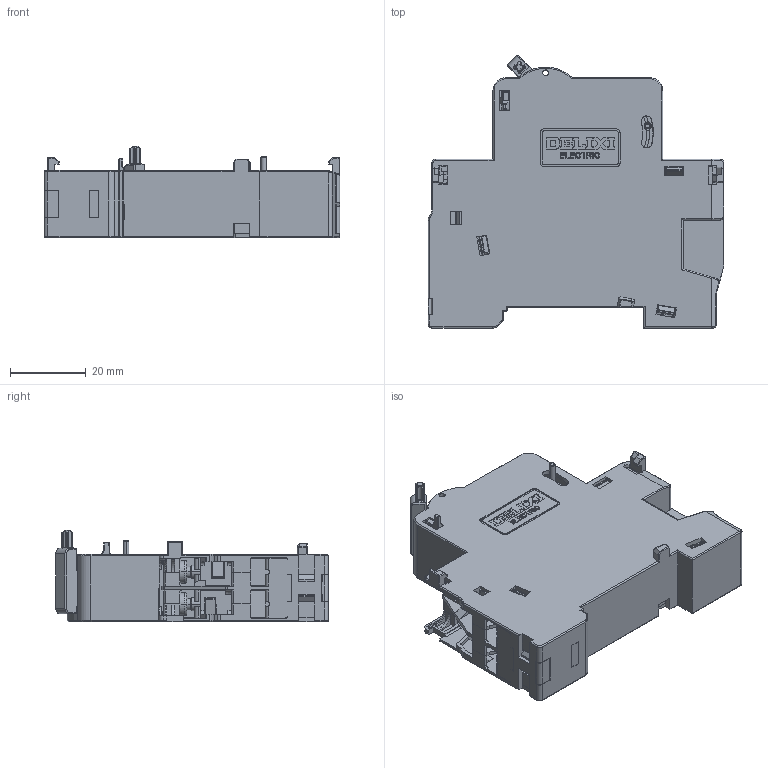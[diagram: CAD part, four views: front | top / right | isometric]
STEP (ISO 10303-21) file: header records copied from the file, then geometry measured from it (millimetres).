
FILE_DESCRIPTION((''),'2;1');
FILE_NAME('2297008400_SW0001','2023-11-07T',('dufeng.zhai'),(''),'PRO/ENGINEER BY PARAMETRIC TECHNOLOGY CORPORATION, 2015440','PRO/ENGINEER BY PARAMETRIC TECHNOLOGY CORPORATION, 2015440','');
FILE_SCHEMA(('CONFIG_CONTROL_DESIGN'));
Products named in the file (1): 2297008400_SW0001
Bounding box: 78 x 71.76 x 24.05 mm (x, y, z)
Volume: 56889.5 mm3; surface area: 35951.1 mm2
Topology: 3 solids, 3 shells, 2595 faces, 7315 edges, 4667 vertices
Faces by surface type: plane 1621, cylinder 667, cone 89, torus 63, bspline 59, sphere 53, extrusion 43
Entity records: 89038 total; most frequent: CARTESIAN_POINT 22046, ORIENTED_EDGE 14630, DIRECTION 13200, EDGE_CURVE 7315, VECTOR 5426, LINE 5383, VERTEX_POINT 4667, AXIS2_PLACEMENT_3D 3887
